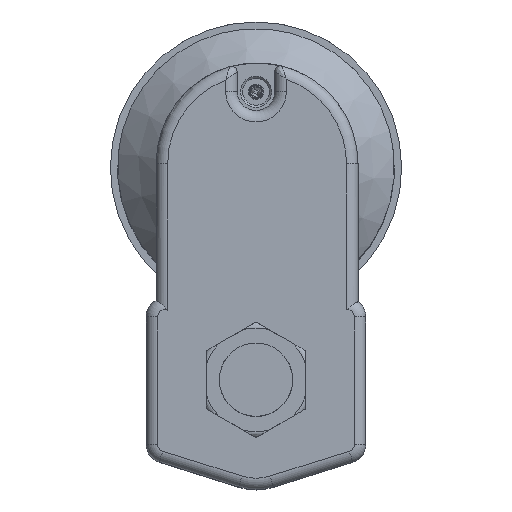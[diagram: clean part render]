
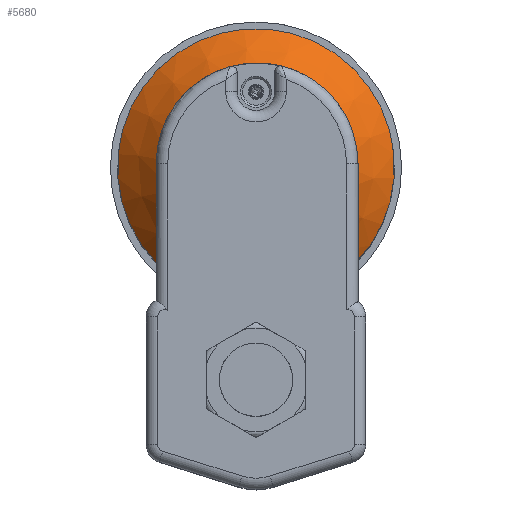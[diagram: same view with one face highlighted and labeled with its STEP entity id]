
A CAD part, top view. The second image highlights one B-rep face of the part: STEP entity #5680.
In plain terms, the highlighted conical face has half-angle 45 degrees and reference radius 48 mm.
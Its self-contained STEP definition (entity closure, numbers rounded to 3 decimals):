
#19 = CARTESIAN_POINT ( 'NONE',  ( -27.908, 34.847, 53.5 ) ) ;
#21 = CARTESIAN_POINT ( 'NONE',  ( 0., 73.9, 53.5 ) ) ;
#22 = DIRECTION ( 'NONE',  ( 0., 0., 1. ) ) ;
#23 = DIRECTION ( 'NONE',  ( 0., -1., 0. ) ) ;
#25 = CARTESIAN_POINT ( 'NONE',  ( 0., 73.9, 67.5 ) ) ;
#26 = CARTESIAN_POINT ( 'NONE',  ( -26.826, 34.768, 54.065 ) ) ;
#27 = CARTESIAN_POINT ( 'NONE',  ( -25.733, 34.688, 54.609 ) ) ;
#28 = CARTESIAN_POINT ( 'NONE',  ( -23.531, 34.53, 55.644 ) ) ;
#29 = CARTESIAN_POINT ( 'NONE',  ( -22.421, 34.452, 56.137 ) ) ;
#30 = CARTESIAN_POINT ( 'NONE',  ( -19.06, 34.223, 57.53 ) ) ;
#31 = CARTESIAN_POINT ( 'NONE',  ( -16.779, 34.077, 58.344 ) ) ;
#32 = CARTESIAN_POINT ( 'NONE',  ( -13.28, 33.887, 59.356 ) ) ;
#33 = CARTESIAN_POINT ( 'NONE',  ( -12.101, 33.829, 59.657 ) ) ;
#34 = CARTESIAN_POINT ( 'NONE',  ( -9.715, 33.725, 60.183 ) ) ;
#35 = CARTESIAN_POINT ( 'NONE',  ( -8.505, 33.679, 60.407 ) ) ;
#36 = CARTESIAN_POINT ( 'NONE',  ( -6.081, 33.605, 60.767 ) ) ;
#37 = CARTESIAN_POINT ( 'NONE',  ( -4.863, 33.577, 60.903 ) ) ;
#38 = CARTESIAN_POINT ( 'NONE',  ( -2.415, 33.538, 61.085 ) ) ;
#39 = CARTESIAN_POINT ( 'NONE',  ( -1.188, 33.529, 61.13 ) ) ;
#40 = CARTESIAN_POINT ( 'NONE',  ( 2.477, 33.529, 61.127 ) ) ;
#41 = CARTESIAN_POINT ( 'NONE',  ( 4.908, 33.569, 60.942 ) ) ;
#42 = CARTESIAN_POINT ( 'NONE',  ( 8.537, 33.68, 60.402 ) ) ;
#43 = CARTESIAN_POINT ( 'NONE',  ( 9.746, 33.726, 60.177 ) ) ;
#44 = CARTESIAN_POINT ( 'NONE',  ( 12.13, 33.83, 59.65 ) ) ;
#45 = CARTESIAN_POINT ( 'NONE',  ( 13.307, 33.888, 59.348 ) ) ;
#46 = CARTESIAN_POINT ( 'NONE',  ( 16.801, 34.078, 58.337 ) ) ;
#47 = CARTESIAN_POINT ( 'NONE',  ( 19.078, 34.224, 57.523 ) ) ;
#48 = CARTESIAN_POINT ( 'NONE',  ( 23.55, 34.529, 55.668 ) ) ;
#49 = CARTESIAN_POINT ( 'NONE',  ( 25.745, 34.688, 54.629 ) ) ;
#50 = CARTESIAN_POINT ( 'NONE',  ( 27.908, 34.847, 53.5 ) ) ;
#54 = DIRECTION ( 'NONE',  ( 0., 0., 1. ) ) ;
#55 = DIRECTION ( 'NONE',  ( 0., -1., 0. ) ) ;
#1532 = ORIENTED_EDGE ( 'NONE', *, *, #2499, .F. ) ;
#1533 = ORIENTED_EDGE ( 'NONE', *, *, #2496, .T. ) ;
#1534 = ORIENTED_EDGE ( 'NONE', *, *, #2497, .T. ) ;
#1670 = CIRCLE ( 'NONE', #2543, 48. ) ;
#1671 = CIRCLE ( 'NONE', #2547, 34. ) ;
#2457 = FACE_OUTER_BOUND ( 'NONE', #4930, .T. ) ;
#2463 = FACE_BOUND ( 'NONE', #4906, .T. ) ;
#2464 = CONICAL_SURFACE ( 'NONE', #2909, 48., 0.785 ) ;
#2496 = EDGE_CURVE ( 'NONE', #5771, #5728, #1670, .T. ) ;
#2497 = EDGE_CURVE ( 'NONE', #5728, #5771, #4522, .T. ) ;
#2499 = EDGE_CURVE ( 'NONE', #4347, #4347, #1671, .T. ) ;
#2543 = AXIS2_PLACEMENT_3D ( 'NONE', #21, #22, #23 ) ;
#2547 = AXIS2_PLACEMENT_3D ( 'NONE', #25, #54, #55 ) ;
#2909 = AXIS2_PLACEMENT_3D ( 'NONE', #4148, #4149, #4138 ) ;
#4138 = DIRECTION ( 'NONE',  ( 0., 1., 0. ) ) ;
#4148 = CARTESIAN_POINT ( 'NONE',  ( 0., 73.9, 53.5 ) ) ;
#4149 = DIRECTION ( 'NONE',  ( 0., 0., -1. ) ) ;
#4202 = CARTESIAN_POINT ( 'NONE',  ( -27.908, 34.847, 53.5 ) ) ;
#4241 = CARTESIAN_POINT ( 'NONE',  ( 27.908, 34.847, 53.5 ) ) ;
#4347 = VERTEX_POINT ( 'NONE', #4348 ) ;
#4348 = CARTESIAN_POINT ( 'NONE',  ( 0., 39.9, 67.5 ) ) ;
#4522 = B_SPLINE_CURVE_WITH_KNOTS ( 'NONE', 3,
 ( #19, #26, #27, #28, #29, #30, #31, #32, #33, #34, #35, #36, #37, #38, #39, #40, #41, #42, #43, #44, #45, #46, #47, #48, #49, #50 ),
 .UNSPECIFIED., .F., .F.,
 ( 4, 2, 2, 2, 2, 2, 2, 2, 2, 2, 2, 2, 4 ),
 ( 0., 0.004, 0.007, 0.015, 0.018, 0.022, 0.026, 0.029, 0.037, 0.04, 0.044, 0.051, 0.059 ),
 .UNSPECIFIED. ) ;
#4906 = EDGE_LOOP ( 'NONE', ( #1532 ) ) ;
#4930 = EDGE_LOOP ( 'NONE', ( #1533, #1534 ) ) ;
#5680 = ADVANCED_FACE ( 'NONE', ( #2463, #2457 ), #2464, .T. ) ;
#5728 = VERTEX_POINT ( 'NONE', #4202 ) ;
#5771 = VERTEX_POINT ( 'NONE', #4241 ) ;
